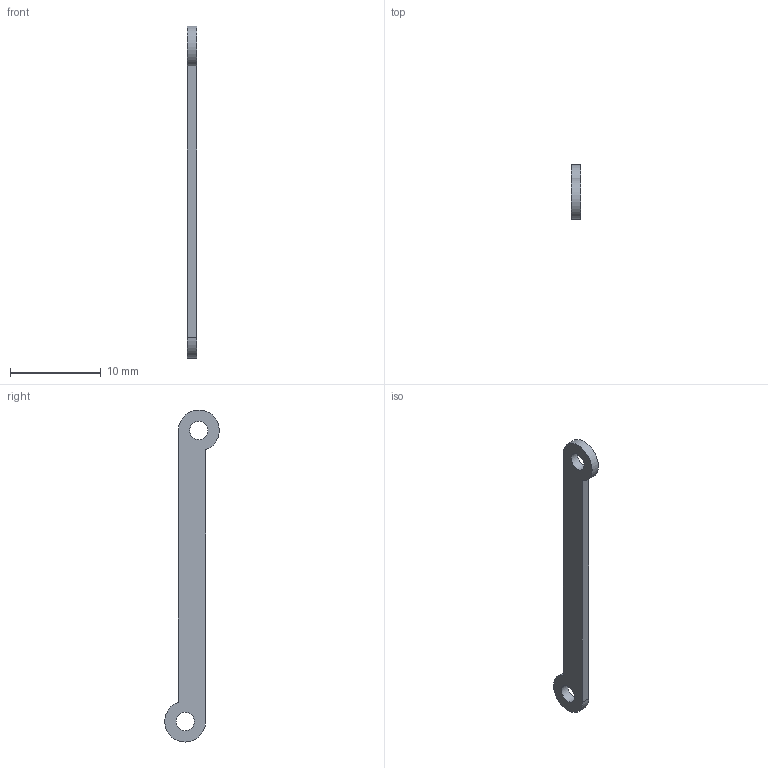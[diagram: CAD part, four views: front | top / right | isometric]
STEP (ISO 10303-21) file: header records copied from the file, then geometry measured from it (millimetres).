
FILE_DESCRIPTION(/* description */ (''),/* implementation_level */ '2;1');
FILE_NAME(/* name */ 'link in middle.stp',/* time_stamp */ '2023-08-14T21:48:59+03:00',/* author */ ('mosta'),/* organization */ (''),/* preprocessor_version */ 'ST-DEVELOPER v19.2',/* originating_system */ 'Autodesk Inventor 2024',/* authorisation */ '');
FILE_SCHEMA (('AUTOMOTIVE_DESIGN { 1 0 10303 214 3 1 1 }'));
Length unit declared in the file: millimetre
Products named in the file (1): link in middle
Bounding box: 1 x 6 x 36.5 mm (x, y, z)
Volume: 110.3 mm3; surface area: 312.5 mm2
Topology: 1 solids, 1 shells, 8 faces, 18 edges, 12 vertices
Faces by surface type: cylinder 4, plane 4
Full cylindrical faces by diameter (mm): 2 x2
Entity records: 290 total; most frequent: DIRECTION 44, CARTESIAN_POINT 39, ORIENTED_EDGE 36, EDGE_CURVE 18, AXIS2_PLACEMENT_3D 17, EDGE_LOOP 12, VERTEX_POINT 12, LINE 10
